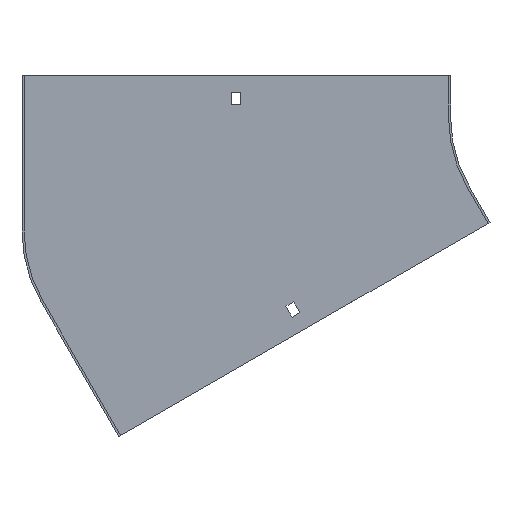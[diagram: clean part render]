
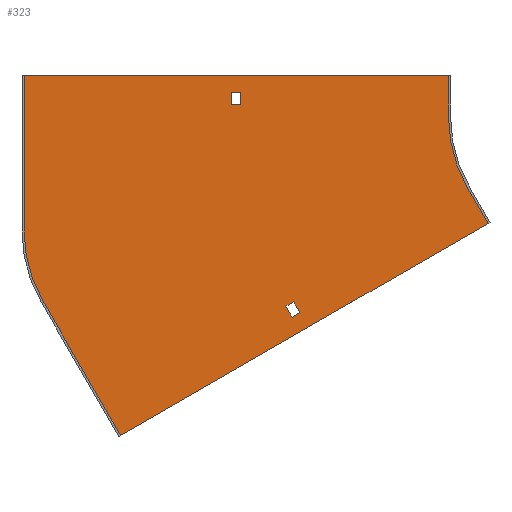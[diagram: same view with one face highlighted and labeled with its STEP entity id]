
A CAD part, front view. The second image highlights one B-rep face of the part: STEP entity #323.
In plain terms, the highlighted planar face has unit normal (0, -1, 0).
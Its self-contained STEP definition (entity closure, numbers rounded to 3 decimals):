
#10 = DIRECTION ( 'NONE',  ( 0., 0., -1. ) ) ;
#16 = CARTESIAN_POINT ( 'NONE',  ( -248.75, -1.5, 9. ) ) ;
#20 = ORIENTED_EDGE ( 'NONE', *, *, #504, .F. ) ;
#23 = VECTOR ( 'NONE', #149, 1000. ) ;
#26 = LINE ( 'NONE', #623, #23 ) ;
#38 = EDGE_LOOP ( 'NONE', ( #501, #535, #736, #169 ) ) ;
#50 = VECTOR ( 'NONE', #740, 1000. ) ;
#54 = CARTESIAN_POINT ( 'NONE',  ( -86.603, -1.5, -50. ) ) ;
#55 = CARTESIAN_POINT ( 'NONE',  ( -221.053, -1.5, -127.625 ) ) ;
#58 = VERTEX_POINT ( 'NONE', #517 ) ;
#59 = CARTESIAN_POINT ( 'NONE',  ( 0., -1.5, 0. ) ) ;
#62 = ORIENTED_EDGE ( 'NONE', *, *, #646, .F. ) ;
#72 = VERTEX_POINT ( 'NONE', #723 ) ;
#74 = LINE ( 'NONE', #603, #606 ) ;
#78 = LINE ( 'NONE', #342, #249 ) ;
#82 = LINE ( 'NONE', #619, #453 ) ;
#83 = VERTEX_POINT ( 'NONE', #184 ) ;
#92 = DIRECTION ( 'NONE',  ( 0.5, 0., -0.866 ) ) ;
#101 = LINE ( 'NONE', #55, #725 ) ;
#103 = VERTEX_POINT ( 'NONE', #54 ) ;
#109 = ORIENTED_EDGE ( 'NONE', *, *, #741, .F. ) ;
#114 = DIRECTION ( 'NONE',  ( 0., -1., 0. ) ) ;
#129 = VERTEX_POINT ( 'NONE', #574 ) ;
#145 = CARTESIAN_POINT ( 'NONE',  ( -100., -1.5, 0. ) ) ;
#149 = DIRECTION ( 'NONE',  ( 0., 0., -1. ) ) ;
#155 = VECTOR ( 'NONE', #821, 1000. ) ;
#157 = CIRCLE ( 'NONE', #506, 100. ) ;
#166 = AXIS2_PLACEMENT_3D ( 'NONE', #410, #461, #799 ) ;
#169 = ORIENTED_EDGE ( 'NONE', *, *, #255, .T. ) ;
#174 = PLANE ( 'NONE',  #764 ) ;
#182 = LINE ( 'NONE', #456, #248 ) ;
#184 = CARTESIAN_POINT ( 'NONE',  ( -248.75, -1.5, 18. ) ) ;
#211 = VECTOR ( 'NONE', #251, 1000. ) ;
#219 = DIRECTION ( 'NONE',  ( -0.866, 0., -0.5 ) ) ;
#239 = ORIENTED_EDGE ( 'NONE', *, *, #780, .F. ) ;
#243 = FACE_BOUND ( 'NONE', #704, .T. ) ;
#248 = VECTOR ( 'NONE', #454, 1000. ) ;
#249 = VECTOR ( 'NONE', #283, 1000. ) ;
#251 = DIRECTION ( 'NONE',  ( -1., 0., 0. ) ) ;
#255 = EDGE_CURVE ( 'NONE', #512, #563, #78, .T. ) ;
#258 = CARTESIAN_POINT ( 'NONE',  ( -390.603, -1.5, -131.457 ) ) ;
#259 = EDGE_CURVE ( 'NONE', #384, #72, #614, .T. ) ;
#264 = LINE ( 'NONE', #528, #273 ) ;
#271 = CARTESIAN_POINT ( 'NONE',  ( -405.5, -1.5, 30. ) ) ;
#273 = VECTOR ( 'NONE', #862, 1000. ) ;
#280 = DIRECTION ( 'NONE',  ( 1., 0., 0. ) ) ;
#281 = CARTESIAN_POINT ( 'NONE',  ( 0., -1.5, 0. ) ) ;
#283 = DIRECTION ( 'NONE',  ( 0., 0., 1. ) ) ;
#311 = VERTEX_POINT ( 'NONE', #847 ) ;
#317 = DIRECTION ( 'NONE',  ( 0.866, 0., 0.5 ) ) ;
#323 = ADVANCED_FACE ( 'NONE', ( #243, #712, #648 ), #174, .T. ) ;
#330 = VECTOR ( 'NONE', #332, 1000. ) ;
#332 = DIRECTION ( 'NONE',  ( -0.5, 0., 0.866 ) ) ;
#338 = CIRCLE ( 'NONE', #166, 100. ) ;
#342 = CARTESIAN_POINT ( 'NONE',  ( -255.25, -1.5, 0. ) ) ;
#346 = EDGE_CURVE ( 'NONE', #665, #512, #700, .T. ) ;
#348 = DIRECTION ( 'NONE',  ( 0., -1., 0. ) ) ;
#353 = CARTESIAN_POINT ( 'NONE',  ( -216.553, -1.5, -135.419 ) ) ;
#368 = DIRECTION ( 'NONE',  ( 0.5, 0., -0.866 ) ) ;
#382 = EDGE_CURVE ( 'NONE', #311, #793, #182, .T. ) ;
#384 = VERTEX_POINT ( 'NONE', #702 ) ;
#395 = LINE ( 'NONE', #855, #533 ) ;
#398 = LINE ( 'NONE', #403, #330 ) ;
#401 = CARTESIAN_POINT ( 'NONE',  ( -404., -1.5, 30. ) ) ;
#403 = CARTESIAN_POINT ( 'NONE',  ( -215.424, -1.5, -124.375 ) ) ;
#405 = CARTESIAN_POINT ( 'NONE',  ( 0., -1.5, 18. ) ) ;
#407 = CARTESIAN_POINT ( 'NONE',  ( -212.053, -1.5, -143.213 ) ) ;
#410 = CARTESIAN_POINT ( 'NONE',  ( -304., -1.5, -81.457 ) ) ;
#417 = CARTESIAN_POINT ( 'NONE',  ( -255.25, -1.5, 18. ) ) ;
#418 = ORIENTED_EDGE ( 'NONE', *, *, #682, .F. ) ;
#448 = VERTEX_POINT ( 'NONE', #145 ) ;
#453 = VECTOR ( 'NONE', #92, 1000. ) ;
#454 = DIRECTION ( 'NONE',  ( 0., 0., 1. ) ) ;
#456 = CARTESIAN_POINT ( 'NONE',  ( -404., -1.5, -81.457 ) ) ;
#461 = DIRECTION ( 'NONE',  ( 0., 1., 0. ) ) ;
#469 = EDGE_CURVE ( 'NONE', #793, #129, #607, .T. ) ;
#472 = CARTESIAN_POINT ( 'NONE',  ( -334.874, -1.5, -227.981 ) ) ;
#481 = ORIENTED_EDGE ( 'NONE', *, *, #382, .F. ) ;
#484 = CARTESIAN_POINT ( 'NONE',  ( -70.304, -1.5, -75.231 ) ) ;
#493 = ORIENTED_EDGE ( 'NONE', *, *, #621, .F. ) ;
#501 = ORIENTED_EDGE ( 'NONE', *, *, #839, .T. ) ;
#504 = EDGE_CURVE ( 'NONE', #787, #311, #338, .T. ) ;
#506 = AXIS2_PLACEMENT_3D ( 'NONE', #281, #348, #816 ) ;
#512 = VERTEX_POINT ( 'NONE', #547 ) ;
#515 = VECTOR ( 'NONE', #219, 1000. ) ;
#517 = CARTESIAN_POINT ( 'NONE',  ( -206.424, -1.5, -139.963 ) ) ;
#523 = VERTEX_POINT ( 'NONE', #622 ) ;
#528 = CARTESIAN_POINT ( 'NONE',  ( 4.5, -1.5, -7.794 ) ) ;
#533 = VECTOR ( 'NONE', #317, 1000. ) ;
#535 = ORIENTED_EDGE ( 'NONE', *, *, #627, .T. ) ;
#540 = LINE ( 'NONE', #472, #50 ) ;
#541 = VERTEX_POINT ( 'NONE', #353 ) ;
#547 = CARTESIAN_POINT ( 'NONE',  ( -255.25, -1.5, 9. ) ) ;
#563 = VERTEX_POINT ( 'NONE', #417 ) ;
#565 = EDGE_LOOP ( 'NONE', ( #628, #481, #20, #62, #695, #806, #418, #707 ) ) ;
#574 = CARTESIAN_POINT ( 'NONE',  ( -100., -1.5, 30. ) ) ;
#603 = CARTESIAN_POINT ( 'NONE',  ( -248.75, -1.5, 0. ) ) ;
#606 = VECTOR ( 'NONE', #10, 1000. ) ;
#607 = LINE ( 'NONE', #271, #691 ) ;
#614 = LINE ( 'NONE', #484, #515 ) ;
#618 = EDGE_CURVE ( 'NONE', #58, #523, #398, .T. ) ;
#619 = CARTESIAN_POINT ( 'NONE',  ( -86.603, -1.5, -50. ) ) ;
#621 = EDGE_CURVE ( 'NONE', #523, #541, #264, .T. ) ;
#622 = CARTESIAN_POINT ( 'NONE',  ( -210.924, -1.5, -132.169 ) ) ;
#623 = CARTESIAN_POINT ( 'NONE',  ( -100., -1.5, 30. ) ) ;
#627 = EDGE_CURVE ( 'NONE', #83, #665, #74, .T. ) ;
#628 = ORIENTED_EDGE ( 'NONE', *, *, #469, .F. ) ;
#646 = EDGE_CURVE ( 'NONE', #72, #787, #540, .T. ) ;
#648 = FACE_BOUND ( 'NONE', #38, .T. ) ;
#649 = VERTEX_POINT ( 'NONE', #407 ) ;
#664 = EDGE_CURVE ( 'NONE', #103, #384, #82, .T. ) ;
#665 = VERTEX_POINT ( 'NONE', #16 ) ;
#682 = EDGE_CURVE ( 'NONE', #448, #103, #157, .T. ) ;
#688 = EDGE_CURVE ( 'NONE', #129, #448, #26, .T. ) ;
#691 = VECTOR ( 'NONE', #280, 1000. ) ;
#695 = ORIENTED_EDGE ( 'NONE', *, *, #259, .F. ) ;
#700 = LINE ( 'NONE', #854, #211 ) ;
#702 = CARTESIAN_POINT ( 'NONE',  ( -71.603, -1.5, -75.981 ) ) ;
#704 = EDGE_LOOP ( 'NONE', ( #792, #239, #109, #493 ) ) ;
#707 = ORIENTED_EDGE ( 'NONE', *, *, #688, .F. ) ;
#712 = FACE_OUTER_BOUND ( 'NONE', #565, .T. ) ;
#723 = CARTESIAN_POINT ( 'NONE',  ( -334.874, -1.5, -227.981 ) ) ;
#725 = VECTOR ( 'NONE', #368, 1000. ) ;
#736 = ORIENTED_EDGE ( 'NONE', *, *, #346, .T. ) ;
#737 = LINE ( 'NONE', #405, #155 ) ;
#740 = DIRECTION ( 'NONE',  ( -0.5, 0., 0.866 ) ) ;
#741 = EDGE_CURVE ( 'NONE', #541, #649, #101, .T. ) ;
#764 = AXIS2_PLACEMENT_3D ( 'NONE', #59, #114, #841 ) ;
#780 = EDGE_CURVE ( 'NONE', #649, #58, #395, .T. ) ;
#787 = VERTEX_POINT ( 'NONE', #258 ) ;
#792 = ORIENTED_EDGE ( 'NONE', *, *, #618, .F. ) ;
#793 = VERTEX_POINT ( 'NONE', #401 ) ;
#799 = DIRECTION ( 'NONE',  ( 0., 0., -1. ) ) ;
#806 = ORIENTED_EDGE ( 'NONE', *, *, #664, .F. ) ;
#816 = DIRECTION ( 'NONE',  ( 0., 0., -1. ) ) ;
#821 = DIRECTION ( 'NONE',  ( 1., 0., 0. ) ) ;
#839 = EDGE_CURVE ( 'NONE', #563, #83, #737, .T. ) ;
#841 = DIRECTION ( 'NONE',  ( 0., 0., -1. ) ) ;
#847 = CARTESIAN_POINT ( 'NONE',  ( -404., -1.5, -81.457 ) ) ;
#854 = CARTESIAN_POINT ( 'NONE',  ( 0., -1.5, 9. ) ) ;
#855 = CARTESIAN_POINT ( 'NONE',  ( 9., -1.5, -15.588 ) ) ;
#862 = DIRECTION ( 'NONE',  ( -0.866, 0., -0.5 ) ) ;
